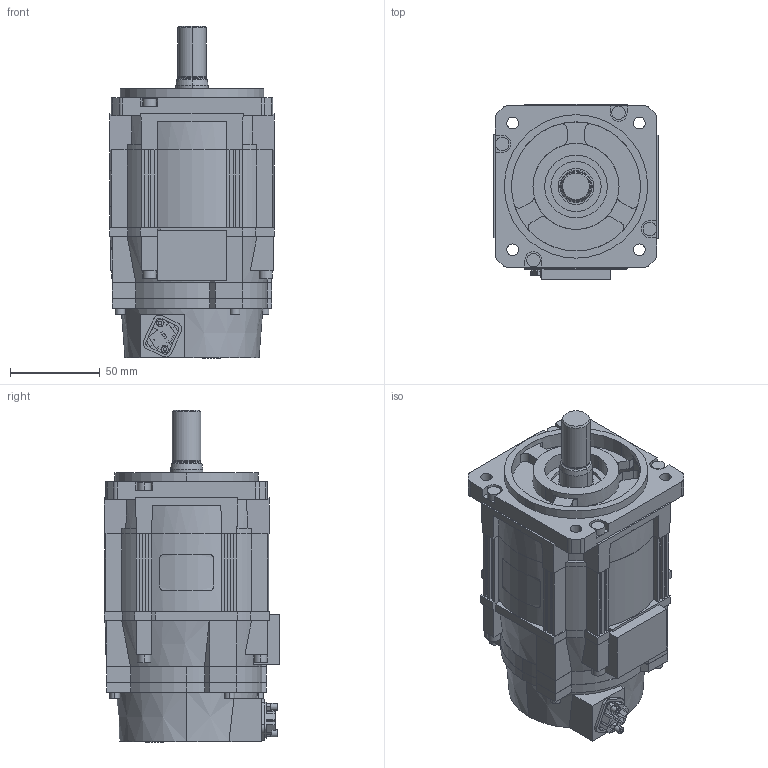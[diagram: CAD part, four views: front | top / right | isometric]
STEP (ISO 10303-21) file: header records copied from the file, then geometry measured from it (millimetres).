
FILE_DESCRIPTION (( 'STEP AP214' ), '1' );
FILE_NAME ('sgmxg_05awa21a1.STEP', '2022-09-14T02:42:50', ( '' ), ( '' ), 'SwSTEP 2.0', 'SolidWorks 2016', '' );
FILE_SCHEMA (( 'AUTOMOTIVE_DESIGN' ));
Length unit declared in the file: millimetre
Products named in the file (1): sgmxg_05awa21a1
Bounding box: 92 x 98 x 185.2 mm (x, y, z)
Volume: 961967.6 mm3; surface area: 81580.3 mm2
Topology: 1 solids, 1 shells, 613 faces, 1692 edges, 1117 vertices
Faces by surface type: plane 416, cylinder 176, cone 13, torus 4, bspline 4
Entity records: 20312 total; most frequent: CARTESIAN_POINT 3748, ORIENTED_EDGE 3384, DIRECTION 3240, EDGE_CURVE 1692, VECTOR 1232, LINE 1232, VERTEX_POINT 1117, AXIS2_PLACEMENT_3D 1004
